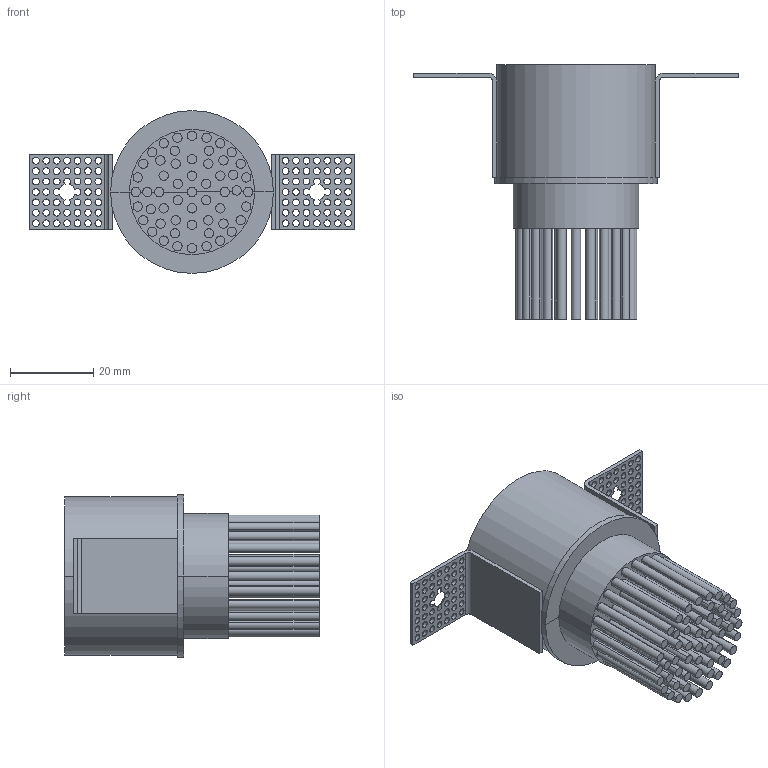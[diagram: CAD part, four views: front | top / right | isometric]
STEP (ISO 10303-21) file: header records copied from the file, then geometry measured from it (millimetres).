
FILE_DESCRIPTION(/* description */ (''),/* implementation_level */ '2;1');
FILE_NAME(/* name */ 'C:\Users\Franco Sartori E\Documents\FARO\DUPLICADO\Modelos\01_Digitalizados\0_FOX\03_Publicación\02101102 - Vista 3D - {3D}.stp',/* time_stamp */ '2020-07-27T12:19:31+02:00',/* author */ ('Franco Sartori E'),/* organization */ (''),/* preprocessor_version */ 'ST-DEVELOPER v18',/* originating_system */ 'AutoCAD Mechanical',/* authorisation */ '');
FILE_SCHEMA (('AUTOMOTIVE_DESIGN { 1 0 10303 214 3 1 1 }'));
Length unit declared in the file: millimetre
Products named in the file (2): Product; 02101101_02101102 - FOX-405474-_3D_
Assembly tree (1 placements, depth 2):
  Product
    02101101_02101102 - FOX-405474-_3D_
Bounding box: 77.86 x 61 x 39 mm (x, y, z)
Volume: 30164.5 mm3; surface area: 27813.8 mm2
Topology: 58 solids, 60 shells, 484 faces, 1094 edges, 718 vertices
Faces by surface type: cylinder 322, plane 150, cone 12
Entity records: 14698 total; most frequent: CARTESIAN_POINT 2895, DIRECTION 2690, ORIENTED_EDGE 2164, AXIS2_PLACEMENT_3D 1157, EDGE_CURVE 1094, VERTEX_POINT 718, CIRCLE 670, EDGE_LOOP 656
